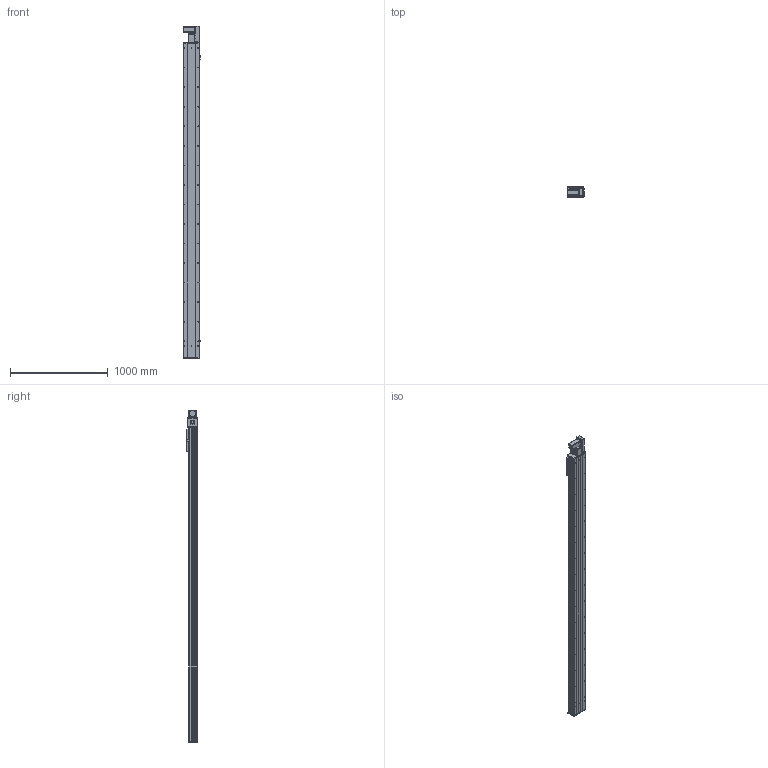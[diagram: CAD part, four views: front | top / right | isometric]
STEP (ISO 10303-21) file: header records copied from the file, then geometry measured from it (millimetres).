
FILE_DESCRIPTION (( 'STEP AP203' ), '1' );
FILE_NAME ('Y170CB-D105-S2900-BR-P400W.STEP', '2020-02-20T00:51:28', ( '微软用户' ), ( '微软中国' ), 'SwSTEP 2.0', 'SolidWorks 2017', '' );
FILE_SCHEMA (( 'CONFIG_CONTROL_DESIGN' ));
Length unit declared in the file: millimetre
Products named in the file (17): Y170CB-陔俋离換覜結え---; --70CB --喘謫眊楊擘啣-; 70CB-掛极-; Y170CB-D105-S2900-BR-P400W; 70CB-耜裔啣-; 70C--詩湍揤踡え-; 70B喘謫眊----; 70CB--耜裔; B-源倛裔啣; 70C-雄赽釱-奻-; 17B-耜蚾蟀諉啣----; 0C--雄赽釱俋欶-170; 0B-萇儂楊擘啣; 70CB-詩湍--; san松下电机400不带刹车----; Y100-135俋离換覜ん--; Y70俋欶BR----
Assembly tree (20 placements, depth 2):
  Y170CB-D105-S2900-BR-P400W
    70B喘謫眊----
    B-源倛裔啣
    17B-耜蚾蟀諉啣----
    0B-萇儂楊擘啣
    san松下电机400不带刹车----
    Y70俋欶BR----
    70CB-掛极-
    --70CB --喘謫眊楊擘啣-
    70CB-耜裔啣-  x2
    70C--詩湍揤踡え-  x2
    70CB--耜裔
    70C-雄赽釱-奻-
    0C--雄赽釱俋欶-170
    70CB-詩湍--
    Y100-135俋离換覜ん--  x3
    Y170CB-陔俋离換覜結え---
Bounding box: 183.5 x 107 x 3397 mm (x, y, z)
Volume: 14012684.7 mm3; surface area: 5057805.6 mm2
Topology: 20 solids, 20 shells, 1073 faces, 2897 edges, 1922 vertices
Faces by surface type: cylinder 587, plane 462, cone 24
Entity records: 34379 total; most frequent: CARTESIAN_POINT 6381, DIRECTION 5596, ORIENTED_EDGE 5276, EDGE_CURVE 2638, AXIS2_PLACEMENT_3D 2065, VERTEX_POINT 1752, VECTOR 1466, LINE 1466
